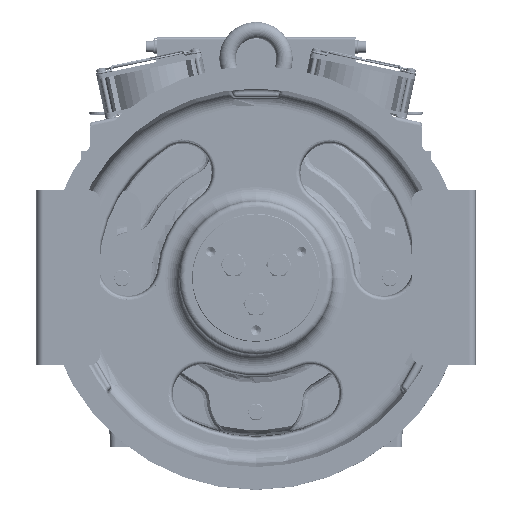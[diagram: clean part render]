
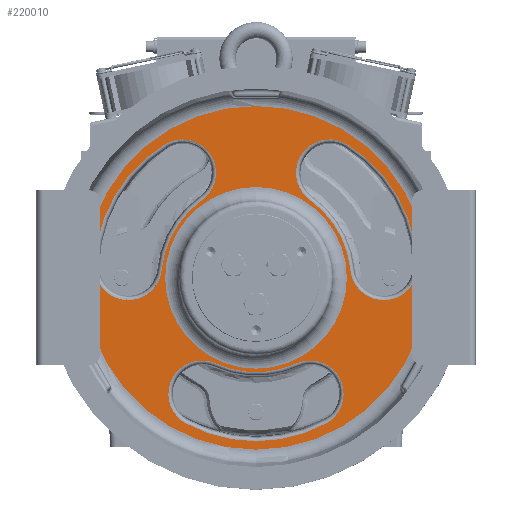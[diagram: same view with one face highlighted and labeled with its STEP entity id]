
A CAD part, top view. The second image highlights one B-rep face of the part: STEP entity #220010.
In plain terms, the highlighted planar face has unit normal (0, 0, 1) as drawn and (0, 0, -1) by its records, which use the part's own axes.
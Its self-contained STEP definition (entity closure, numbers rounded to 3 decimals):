
#215464=CARTESIAN_POINT('',(0.,0.,-10.));
#215465=DIRECTION('',(0.,0.,1.));
#215466=DIRECTION('',(0.,-1.,0.));
#215467=AXIS2_PLACEMENT_3D('',#215464,#215465,#215466);
#215469=CARTESIAN_POINT('',(0.,0.,-10.));
#215470=DIRECTION('',(0.,0.,1.));
#215471=DIRECTION('',(0.,1.,0.));
#215472=AXIS2_PLACEMENT_3D('',#215469,#215470,#215471);
#215474=CARTESIAN_POINT('',(0.,0.,-10.));
#215475=DIRECTION('',(0.,0.,-1.));
#215476=DIRECTION('',(0.,-1.,0.));
#215477=AXIS2_PLACEMENT_3D('',#215474,#215475,#215476);
#215479=CARTESIAN_POINT('',(0.,0.,-10.));
#215480=DIRECTION('',(0.,0.,-1.));
#215481=DIRECTION('',(0.,1.,0.));
#215482=AXIS2_PLACEMENT_3D('',#215479,#215480,#215481);
#215484=CARTESIAN_POINT('',(-46.488,-99.694,-10.));
#215485=DIRECTION('',(0.,0.,-1.));
#215486=DIRECTION('',(-0.477,-0.879,0.));
#215487=AXIS2_PLACEMENT_3D('',#215484,#215485,#215486);
#215489=CARTESIAN_POINT('',(0.,2.752,-10.));
#215490=DIRECTION('',(0.,0.,1.));
#215491=DIRECTION('',(-0.413,-0.911,0.));
#215492=AXIS2_PLACEMENT_3D('',#215489,#215490,#215491);
#215494=CARTESIAN_POINT('',(46.488,-99.694,-10.));
#215495=DIRECTION('',(0.,0.,-1.));
#215496=DIRECTION('',(-0.413,0.911,0.));
#215497=AXIS2_PLACEMENT_3D('',#215494,#215495,#215496);
#215499=CARTESIAN_POINT('',(0.,-13.99,-10.));
#215500=DIRECTION('',(0.,0.,-1.));
#215501=DIRECTION('',(0.477,-0.879,0.));
#215502=AXIS2_PLACEMENT_3D('',#215499,#215500,#215501);
#215504=CARTESIAN_POINT('',(109.581,9.587,-10.));
#215505=DIRECTION('',(0.,0.,-1.));
#215506=DIRECTION('',(1.,0.027,0.));
#215507=AXIS2_PLACEMENT_3D('',#215504,#215505,#215506);
#215509=CARTESIAN_POINT('',(-2.383,-1.376,-10.));
#215510=DIRECTION('',(0.,0.,1.));
#215511=DIRECTION('',(0.995,0.097,0.));
#215512=AXIS2_PLACEMENT_3D('',#215509,#215510,#215511);
#215514=CARTESIAN_POINT('',(63.093,90.107,-10.));
#215515=DIRECTION('',(0.,0.,-1.));
#215516=DIRECTION('',(-0.582,-0.813,0.));
#215517=AXIS2_PLACEMENT_3D('',#215514,#215515,#215516);
#215519=CARTESIAN_POINT('',(12.116,6.995,-10.));
#215520=DIRECTION('',(0.,0.,-1.));
#215521=DIRECTION('',(0.523,0.852,0.));
#215522=AXIS2_PLACEMENT_3D('',#215519,#215520,#215521);
#215524=CARTESIAN_POINT('',(-63.093,90.107,-10.));
#215525=DIRECTION('',(0.,0.,-1.));
#215526=DIRECTION('',(-0.523,0.852,0.));
#215527=AXIS2_PLACEMENT_3D('',#215524,#215525,#215526);
#215529=CARTESIAN_POINT('',(2.383,-1.376,-10.));
#215530=DIRECTION('',(0.,0.,1.));
#215531=DIRECTION('',(-0.582,0.813,0.));
#215532=AXIS2_PLACEMENT_3D('',#215529,#215530,#215531);
#215534=CARTESIAN_POINT('',(-109.581,9.587,-10.));
#215535=DIRECTION('',(0.,0.,-1.));
#215536=DIRECTION('',(0.995,-0.097,0.));
#215537=AXIS2_PLACEMENT_3D('',#215534,#215535,#215536);
#215539=CARTESIAN_POINT('',(-12.116,6.995,-10.));
#215540=DIRECTION('',(0.,0.,-1.));
#215541=DIRECTION('',(-1.,0.027,0.));
#215542=AXIS2_PLACEMENT_3D('',#215539,#215540,#215541);
#219275=CARTESIAN_POINT('',(0.,-77.987,-10.));
#219276=CARTESIAN_POINT('',(0.,77.987,-10.));
#219277=VERTEX_POINT('',#219275);
#219278=VERTEX_POINT('',#219276);
#219279=CARTESIAN_POINT('',(0.,-147.491,-10.));
#219280=CARTESIAN_POINT('',(0.,147.491,-10.));
#219281=VERTEX_POINT('',#219279);
#219282=VERTEX_POINT('',#219280);
#219283=CARTESIAN_POINT('',(-60.197,-124.967,-10.));
#219284=CARTESIAN_POINT('',(-34.607,-73.511,-10.));
#219285=VERTEX_POINT('',#219283);
#219286=VERTEX_POINT('',#219284);
#219287=CARTESIAN_POINT('',(34.607,-73.511,-10.));
#219288=VERTEX_POINT('',#219287);
#219289=CARTESIAN_POINT('',(60.197,-124.967,-10.));
#219290=VERTEX_POINT('',#219289);
#219291=CARTESIAN_POINT('',(138.324,10.352,-10.));
#219292=CARTESIAN_POINT('',(80.966,6.785,-10.));
#219293=VERTEX_POINT('',#219291);
#219294=VERTEX_POINT('',#219292);
#219295=CARTESIAN_POINT('',(46.359,66.726,-10.));
#219296=VERTEX_POINT('',#219295);
#219297=CARTESIAN_POINT('',(78.126,114.616,-10.));
#219298=VERTEX_POINT('',#219297);
#219299=CARTESIAN_POINT('',(-78.126,114.616,-10.));
#219300=CARTESIAN_POINT('',(-46.359,66.726,-10.));
#219301=VERTEX_POINT('',#219299);
#219302=VERTEX_POINT('',#219300);
#219303=CARTESIAN_POINT('',(-80.966,6.785,-10.));
#219304=VERTEX_POINT('',#219303);
#219305=CARTESIAN_POINT('',(-138.324,10.352,-10.));
#219306=VERTEX_POINT('',#219305);
#219964=CARTESIAN_POINT('',(0.,0.,-10.));
#219965=DIRECTION('',(0.,0.,1.));
#219966=DIRECTION('',(0.,1.,0.));
#219967=AXIS2_PLACEMENT_3D('',#219964,#219965,#219966);
#219968=PLANE('',#219967);
#219970=ORIENTED_EDGE('',*,*,#219969,.T.);
#219972=ORIENTED_EDGE('',*,*,#219971,.T.);
#219973=EDGE_LOOP('',(#219970,#219972));
#219974=FACE_OUTER_BOUND('',#219973,.F.);
#219975=ORIENTED_EDGE('',*,*,#219953,.T.);
#219977=ORIENTED_EDGE('',*,*,#219976,.T.);
#219978=EDGE_LOOP('',(#219975,#219977));
#219979=FACE_BOUND('',#219978,.F.);
#219981=ORIENTED_EDGE('',*,*,#219980,.T.);
#219983=ORIENTED_EDGE('',*,*,#219982,.T.);
#219985=ORIENTED_EDGE('',*,*,#219984,.T.);
#219987=ORIENTED_EDGE('',*,*,#219986,.T.);
#219988=EDGE_LOOP('',(#219981,#219983,#219985,#219987));
#219989=FACE_BOUND('',#219988,.F.);
#219991=ORIENTED_EDGE('',*,*,#219990,.T.);
#219993=ORIENTED_EDGE('',*,*,#219992,.T.);
#219995=ORIENTED_EDGE('',*,*,#219994,.T.);
#219997=ORIENTED_EDGE('',*,*,#219996,.T.);
#219998=EDGE_LOOP('',(#219991,#219993,#219995,#219997));
#219999=FACE_BOUND('',#219998,.F.);
#220001=ORIENTED_EDGE('',*,*,#220000,.T.);
#220003=ORIENTED_EDGE('',*,*,#220002,.T.);
#220005=ORIENTED_EDGE('',*,*,#220004,.T.);
#220007=ORIENTED_EDGE('',*,*,#220006,.T.);
#220008=EDGE_LOOP('',(#220001,#220003,#220005,#220007));
#220009=FACE_BOUND('',#220008,.F.);
#220010=ADVANCED_FACE('',(#219974,#219979,#219989,#219999,#220009),#219968,.F.);
#215468=CIRCLE('',#215467,147.491);
#215473=CIRCLE('',#215472,147.491);
#215478=CIRCLE('',#215477,77.987);
#215483=CIRCLE('',#215482,77.987);
#215488=CIRCLE('',#215487,28.752);
#215493=CIRCLE('',#215492,83.748);
#215498=CIRCLE('',#215497,28.752);
#215503=CIRCLE('',#215502,126.252);
#215508=CIRCLE('',#215507,28.752);
#215513=CIRCLE('',#215512,83.748);
#215518=CIRCLE('',#215517,28.752);
#215523=CIRCLE('',#215522,126.252);
#215528=CIRCLE('',#215527,28.752);
#215533=CIRCLE('',#215532,83.748);
#215538=CIRCLE('',#215537,28.752);
#215543=CIRCLE('',#215542,126.252);
#219953=EDGE_CURVE('',#219277,#219278,#215478,.T.);
#219969=EDGE_CURVE('',#219281,#219282,#215468,.T.);
#219971=EDGE_CURVE('',#219282,#219281,#215473,.T.);
#219976=EDGE_CURVE('',#219278,#219277,#215483,.T.);
#219980=EDGE_CURVE('',#219285,#219286,#215488,.T.);
#219982=EDGE_CURVE('',#219286,#219288,#215493,.T.);
#219984=EDGE_CURVE('',#219288,#219290,#215498,.T.);
#219986=EDGE_CURVE('',#219290,#219285,#215503,.T.);
#219990=EDGE_CURVE('',#219293,#219294,#215508,.T.);
#219992=EDGE_CURVE('',#219294,#219296,#215513,.T.);
#219994=EDGE_CURVE('',#219296,#219298,#215518,.T.);
#219996=EDGE_CURVE('',#219298,#219293,#215523,.T.);
#220000=EDGE_CURVE('',#219301,#219302,#215528,.T.);
#220002=EDGE_CURVE('',#219302,#219304,#215533,.T.);
#220004=EDGE_CURVE('',#219304,#219306,#215538,.T.);
#220006=EDGE_CURVE('',#219306,#219301,#215543,.T.);
